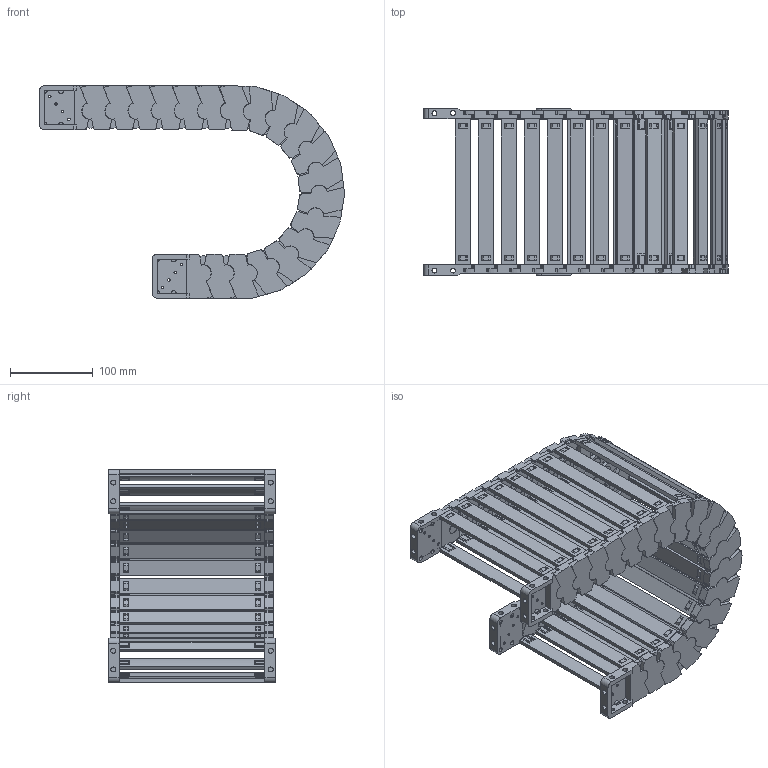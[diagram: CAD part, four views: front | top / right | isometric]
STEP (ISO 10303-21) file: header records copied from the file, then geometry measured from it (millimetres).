
FILE_DESCRIPTION((''),'2;1');
FILE_NAME('JY-42X175-R100_ASM','2026-05-04T14:44:15',('admin'),(''),'CREO PARAMETRIC BY PTC INC, 2021023','CREO PARAMETRIC BY PTC INC, 2021023','');
FILE_SCHEMA(('CONFIG_CONTROL_DESIGN'));
Length unit declared in the file: millimetre
Products named in the file (11): 42XL-L; 42-52XL-YP; 42XL-R; ASM0001_ASM; 42-LTT-A-L; 42-LTT-A-R; 42XL-LTT-A_ASM; 42-LTT-B-L; 42-LTT-B-R; 42XL-LTT-B_ASM; JY-42X175-R100_ASM
Assembly tree (33 placements, depth 3):
  JY-42X175-R100_ASM
    ASM0001_ASM  x19
      42XL-L
      42-52XL-YP
      42XL-R
    42XL-LTT-A_ASM
      42-LTT-A-L
      42-52XL-YP  x2
      42-LTT-A-R
    42XL-LTT-B_ASM
      42-LTT-B-L
      42-52XL-YP  x2
      42-LTT-B-R
Bounding box: 367.66 x 202 x 256.52 mm (x, y, z)
Volume: 1198143.7 mm3; surface area: 673196 mm2
Topology: 84 solids, 84 shells, 4608 faces, 13808 edges, 9344 vertices
Faces by surface type: plane 3070, cylinder 1068, cone 380, bspline 72, torus 18
Entity records: 26489 total; most frequent: CARTESIAN_POINT 7339, ORIENTED_EDGE 4024, DIRECTION 3964, EDGE_CURVE 2012, AXIS2_PLACEMENT_3D 1432, VERTEX_POINT 1360, VECTOR 1100, LINE 1100
